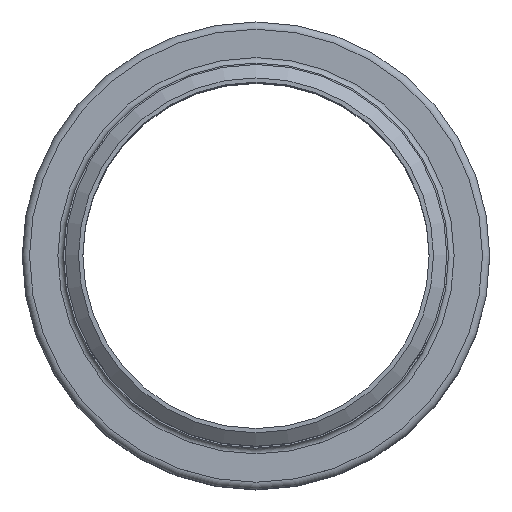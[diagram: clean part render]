
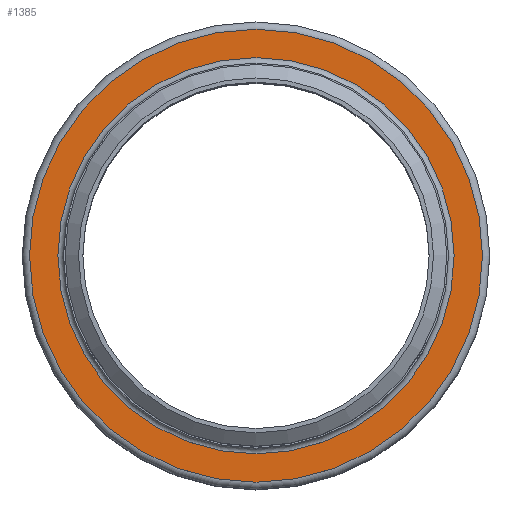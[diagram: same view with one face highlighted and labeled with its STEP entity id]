
A CAD part, top view. The second image highlights one B-rep face of the part: STEP entity #1385.
In plain terms, the highlighted planar face has unit normal (0, 0, 1).
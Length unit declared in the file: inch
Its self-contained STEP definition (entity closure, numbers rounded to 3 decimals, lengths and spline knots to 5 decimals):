
#155=FACE_BOUND('',#416,.T.);
#256=FACE_OUTER_BOUND('',#415,.T.);
#415=EDGE_LOOP('',(#1168));
#416=EDGE_LOOP('',(#1169));
#584=CIRCLE('',#1684,2.88725);
#585=CIRCLE('',#1686,3.30075);
#703=VERTEX_POINT('',#2631);
#704=VERTEX_POINT('',#2635);
#862=EDGE_CURVE('',#703,#703,#584,.T.);
#863=EDGE_CURVE('',#704,#704,#585,.T.);
#1168=ORIENTED_EDGE('',*,*,#863,.F.);
#1169=ORIENTED_EDGE('',*,*,#862,.T.);
#1284=PLANE('',#1685);
#1385=ADVANCED_FACE('',(#256,#155),#1284,.T.);
#1684=AXIS2_PLACEMENT_3D('',#2633,#2197,#2198);
#1685=AXIS2_PLACEMENT_3D('',#2634,#2199,#2200);
#1686=AXIS2_PLACEMENT_3D('',#2636,#2201,#2202);
#2197=DIRECTION('center_axis',(0.,0.,-1.));
#2198=DIRECTION('ref_axis',(1.,0.,0.));
#2199=DIRECTION('center_axis',(0.,0.,1.));
#2200=DIRECTION('ref_axis',(1.,0.,0.));
#2201=DIRECTION('center_axis',(0.,0.,-1.));
#2202=DIRECTION('ref_axis',(1.,0.,0.));
#2631=CARTESIAN_POINT('',(2.88725,0.,-0.08175));
#2633=CARTESIAN_POINT('Origin',(0.,0.,-0.08175));
#2634=CARTESIAN_POINT('Origin',(0.,3.30075,-0.08175));
#2635=CARTESIAN_POINT('',(3.30075,0.,-0.08175));
#2636=CARTESIAN_POINT('Origin',(0.,0.,-0.08175));
